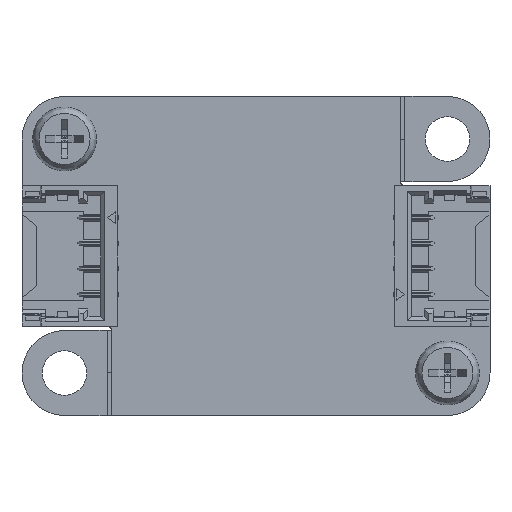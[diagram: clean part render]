
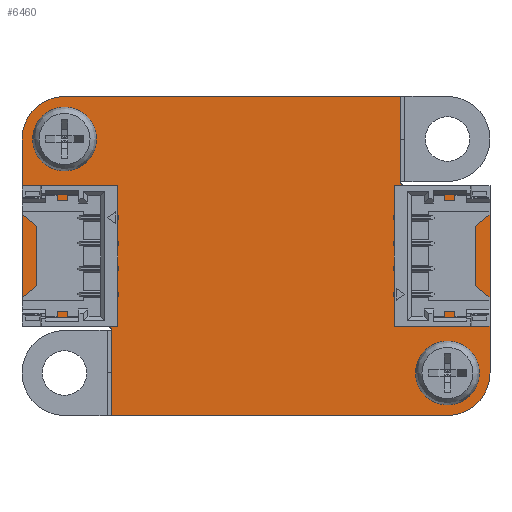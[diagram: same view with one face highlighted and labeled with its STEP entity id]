
A CAD part, front view. The second image highlights one B-rep face of the part: STEP entity #6460.
In plain terms, the highlighted planar face has unit normal (0, -1, 0).
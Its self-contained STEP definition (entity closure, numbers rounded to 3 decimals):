
#78=FACE_BOUND('',#769,.T.);
#79=FACE_BOUND('',#770,.T.);
#109=PLANE('',#6953);
#420=FACE_OUTER_BOUND('',#768,.T.);
#768=EDGE_LOOP('',(#4553,#4554,#4555,#4556,#4557,#4558,#4559,#4560,#4561,
#4562,#4563,#4564));
#769=EDGE_LOOP('',(#4565));
#770=EDGE_LOOP('',(#4566));
#1135=LINE('',#9143,#2006);
#1140=LINE('',#9158,#2011);
#1145=LINE('',#9167,#2016);
#1148=LINE('',#9173,#2019);
#1149=LINE('',#9176,#2020);
#1152=LINE('',#9182,#2023);
#1155=LINE('',#9188,#2026);
#1156=LINE('',#9191,#2027);
#2006=VECTOR('',#7393,10.);
#2011=VECTOR('',#7406,10.);
#2016=VECTOR('',#7413,10.);
#2019=VECTOR('',#7418,10.);
#2020=VECTOR('',#7421,10.);
#2023=VECTOR('',#7426,10.);
#2026=VECTOR('',#7431,10.);
#2027=VECTOR('',#7434,10.);
#2875=CIRCLE('',#6942,0.2);
#2877=CIRCLE('',#6946,0.2);
#2879=CIRCLE('',#6954,2.);
#2880=CIRCLE('',#6955,2.);
#2881=CIRCLE('',#6956,1.05);
#2882=CIRCLE('',#6957,1.05);
#2954=VERTEX_POINT('',#9133);
#2955=VERTEX_POINT('',#9134);
#2958=VERTEX_POINT('',#9142);
#2960=VERTEX_POINT('',#9148);
#2961=VERTEX_POINT('',#9149);
#2964=VERTEX_POINT('',#9157);
#2967=VERTEX_POINT('',#9165);
#2969=VERTEX_POINT('',#9171);
#2970=VERTEX_POINT('',#9175);
#2972=VERTEX_POINT('',#9181);
#2974=VERTEX_POINT('',#9187);
#2975=VERTEX_POINT('',#9190);
#2976=VERTEX_POINT('',#9193);
#2977=VERTEX_POINT('',#9195);
#3572=EDGE_CURVE('',#2954,#2955,#2875,.T.);
#3576=EDGE_CURVE('',#2958,#2955,#1135,.T.);
#3579=EDGE_CURVE('',#2960,#2961,#2877,.T.);
#3583=EDGE_CURVE('',#2964,#2961,#1140,.T.);
#3588=EDGE_CURVE('',#2960,#2967,#1145,.T.);
#3591=EDGE_CURVE('',#2954,#2969,#1148,.T.);
#3592=EDGE_CURVE('',#2964,#2970,#1149,.T.);
#3595=EDGE_CURVE('',#2958,#2972,#1152,.T.);
#3598=EDGE_CURVE('',#2974,#2967,#1155,.T.);
#3599=EDGE_CURVE('',#2972,#2974,#2879,.T.);
#3600=EDGE_CURVE('',#2975,#2969,#1156,.T.);
#3601=EDGE_CURVE('',#2970,#2975,#2880,.T.);
#3602=EDGE_CURVE('',#2976,#2976,#2881,.T.);
#3603=EDGE_CURVE('',#2977,#2977,#2882,.T.);
#4553=ORIENTED_EDGE('',*,*,#3583,.T.);
#4554=ORIENTED_EDGE('',*,*,#3579,.F.);
#4555=ORIENTED_EDGE('',*,*,#3588,.T.);
#4556=ORIENTED_EDGE('',*,*,#3598,.F.);
#4557=ORIENTED_EDGE('',*,*,#3599,.F.);
#4558=ORIENTED_EDGE('',*,*,#3595,.F.);
#4559=ORIENTED_EDGE('',*,*,#3576,.T.);
#4560=ORIENTED_EDGE('',*,*,#3572,.F.);
#4561=ORIENTED_EDGE('',*,*,#3591,.T.);
#4562=ORIENTED_EDGE('',*,*,#3600,.F.);
#4563=ORIENTED_EDGE('',*,*,#3601,.F.);
#4564=ORIENTED_EDGE('',*,*,#3592,.F.);
#4565=ORIENTED_EDGE('',*,*,#3602,.T.);
#4566=ORIENTED_EDGE('',*,*,#3603,.T.);
#6460=ADVANCED_FACE('',(#420,#78,#79),#109,.F.);
#6942=AXIS2_PLACEMENT_3D('',#9135,#7385,#7386);
#6946=AXIS2_PLACEMENT_3D('',#9150,#7398,#7399);
#6953=AXIS2_PLACEMENT_3D('',#9186,#7429,#7430);
#6954=AXIS2_PLACEMENT_3D('',#9189,#7432,#7433);
#6955=AXIS2_PLACEMENT_3D('',#9192,#7435,#7436);
#6956=AXIS2_PLACEMENT_3D('',#9194,#7437,#7438);
#6957=AXIS2_PLACEMENT_3D('',#9196,#7439,#7440);
#7385=DIRECTION('center_axis',(0.,-1.,0.));
#7386=DIRECTION('ref_axis',(0.707,0.,0.707));
#7393=DIRECTION('',(1.,0.,0.));
#7398=DIRECTION('center_axis',(0.,-1.,0.));
#7399=DIRECTION('ref_axis',(-0.707,0.,-0.707));
#7406=DIRECTION('',(-1.,0.,0.));
#7413=DIRECTION('',(0.,0.,1.));
#7418=DIRECTION('',(0.,0.,-1.));
#7421=DIRECTION('',(0.,0.,-1.));
#7426=DIRECTION('',(0.,0.,1.));
#7429=DIRECTION('center_axis',(0.,1.,0.));
#7430=DIRECTION('ref_axis',(0.,0.,1.));
#7431=DIRECTION('',(1.,0.,0.));
#7432=DIRECTION('center_axis',(0.,1.,0.));
#7433=DIRECTION('ref_axis',(-0.707,0.,0.707));
#7434=DIRECTION('',(-1.,0.,0.));
#7435=DIRECTION('center_axis',(0.,1.,0.));
#7436=DIRECTION('ref_axis',(0.707,0.,-0.707));
#7437=DIRECTION('center_axis',(0.,1.,0.));
#7438=DIRECTION('ref_axis',(-1.,0.,0.));
#7439=DIRECTION('center_axis',(0.,1.,0.));
#7440=DIRECTION('ref_axis',(-1.,0.,0.));
#9133=CARTESIAN_POINT('',(-6.8,0.,-3.5));
#9134=CARTESIAN_POINT('',(-7.,0.,-3.3));
#9135=CARTESIAN_POINT('Origin',(-7.,0.,-3.5));
#9142=CARTESIAN_POINT('',(-11.,0.,-3.3));
#9143=CARTESIAN_POINT('',(-5.9,0.,-3.3));
#9148=CARTESIAN_POINT('',(6.8,0.,3.5));
#9149=CARTESIAN_POINT('',(7.,0.,3.3));
#9150=CARTESIAN_POINT('Origin',(7.,0.,3.5));
#9157=CARTESIAN_POINT('',(11.,0.,3.3));
#9158=CARTESIAN_POINT('',(5.9,0.,3.3));
#9165=CARTESIAN_POINT('',(6.8,0.,7.5));
#9167=CARTESIAN_POINT('',(6.8,0.,1.65));
#9171=CARTESIAN_POINT('',(-6.8,0.,-7.5));
#9173=CARTESIAN_POINT('',(-6.8,0.,-1.65));
#9175=CARTESIAN_POINT('',(11.,0.,-5.5));
#9176=CARTESIAN_POINT('',(11.,0.,7.5));
#9181=CARTESIAN_POINT('',(-11.,0.,5.5));
#9182=CARTESIAN_POINT('',(-11.,0.,-7.5));
#9186=CARTESIAN_POINT('Origin',(0.,0.,0.));
#9187=CARTESIAN_POINT('',(-9.,0.,7.5));
#9188=CARTESIAN_POINT('',(-11.,0.,7.5));
#9189=CARTESIAN_POINT('Origin',(-9.,0.,5.5));
#9190=CARTESIAN_POINT('',(9.,0.,-7.5));
#9191=CARTESIAN_POINT('',(11.,0.,-7.5));
#9192=CARTESIAN_POINT('Origin',(9.,0.,-5.5));
#9193=CARTESIAN_POINT('',(10.05,0.,-5.5));
#9194=CARTESIAN_POINT('Origin',(9.,0.,-5.5));
#9195=CARTESIAN_POINT('',(-7.95,0.,5.5));
#9196=CARTESIAN_POINT('Origin',(-9.,0.,5.5));
